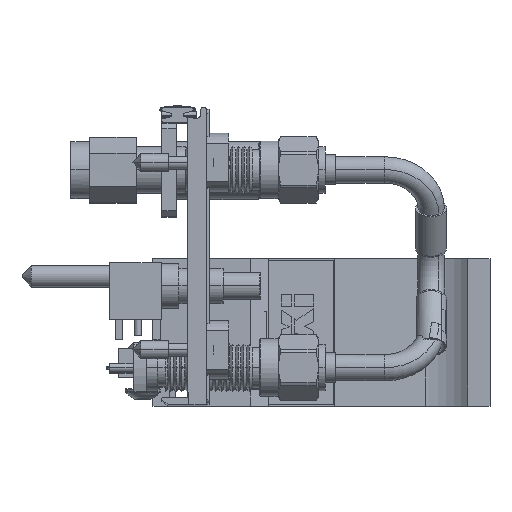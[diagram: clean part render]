
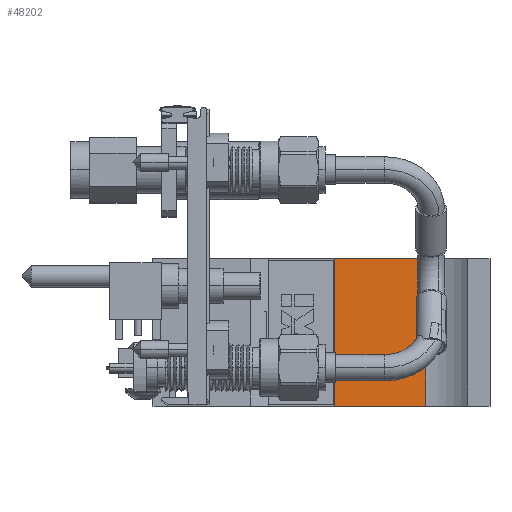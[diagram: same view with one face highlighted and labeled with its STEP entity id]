
A CAD part, top view. The second image highlights one B-rep face of the part: STEP entity #48202.
In plain terms, the highlighted planar face has unit normal (0.065, 0, 0.998).
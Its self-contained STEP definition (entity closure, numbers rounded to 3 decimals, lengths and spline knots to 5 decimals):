
#29064=DIRECTION('',(0.998,0.,-0.065));
#29065=VECTOR('',#29064,0.48638);
#29066=CARTESIAN_POINT('',(0.73337,-1.16479,
0.17339));
#29067=LINE('',#29066,#29065);
#29152=DIRECTION('',(-0.998,0.,0.065));
#29153=VECTOR('',#29152,0.48638);
#29154=CARTESIAN_POINT('',(1.21871,-1.95279,
0.14161));
#29155=LINE('',#29154,#29153);
#29442=DIRECTION('',(0.,-1.,0.));
#29443=VECTOR('',#29442,0.788);
#29444=CARTESIAN_POINT('',(1.21871,-1.16479,
0.14161));
#29445=LINE('',#29444,#29443);
#29446=DIRECTION('',(0.,-1.,0.));
#29447=VECTOR('',#29446,0.788);
#29448=CARTESIAN_POINT('',(0.73337,-1.16479,
0.17339));
#29449=LINE('',#29448,#29447);
#40196=CARTESIAN_POINT('',(0.73337,-1.95279,
0.17339));
#40197=VERTEX_POINT('',#40196);
#40198=CARTESIAN_POINT('',(1.21871,-1.95279,
0.14161));
#40199=VERTEX_POINT('',#40198);
#40316=CARTESIAN_POINT('',(1.21871,-1.16479,
0.14161));
#40317=VERTEX_POINT('',#40316);
#40320=CARTESIAN_POINT('',(0.73337,-1.16479,
0.17339));
#40321=VERTEX_POINT('',#40320);
#48190=CARTESIAN_POINT('',(1.2686,-2.00279,
0.13834));
#48191=DIRECTION('',(0.065,0.,0.998));
#48192=DIRECTION('',(-0.998,0.,0.065));
#48193=AXIS2_PLACEMENT_3D('',#48190,#48191,#48192);
#48194=PLANE('',#48193);
#48195=ORIENTED_EDGE('',*,*,#47811,.T.);
#48197=ORIENTED_EDGE('',*,*,#48196,.F.);
#48198=ORIENTED_EDGE('',*,*,#47747,.T.);
#48199=ORIENTED_EDGE('',*,*,#48183,.T.);
#48200=EDGE_LOOP('',(#48195,#48197,#48198,#48199));
#48201=FACE_OUTER_BOUND('',#48200,.F.);
#48202=ADVANCED_FACE('',(#48201),#48194,.T.);
#47747=EDGE_CURVE('',#40321,#40317,#29067,.T.);
#47811=EDGE_CURVE('',#40199,#40197,#29155,.T.);
#48183=EDGE_CURVE('',#40317,#40199,#29445,.T.);
#48196=EDGE_CURVE('',#40321,#40197,#29449,.T.);
